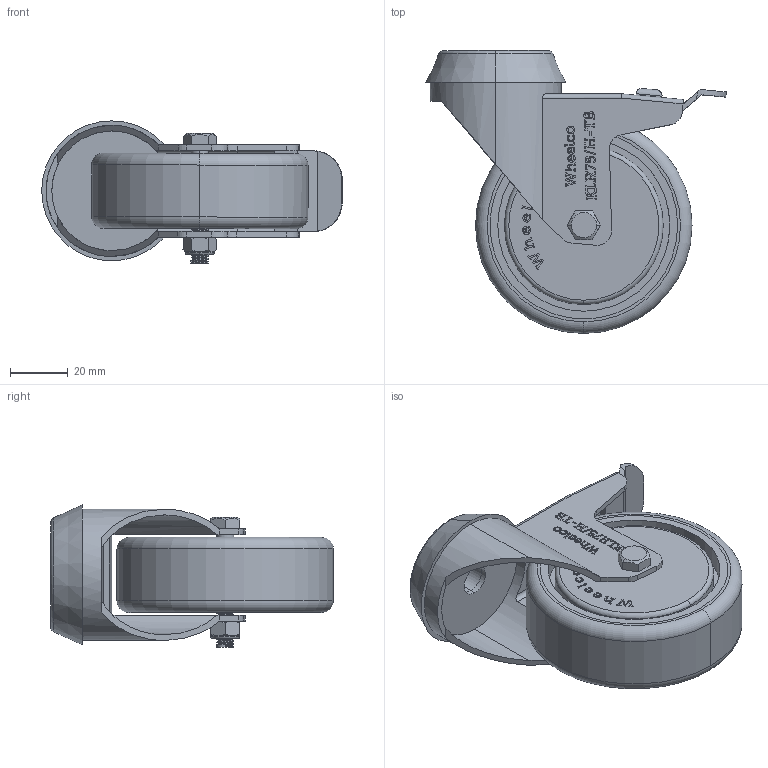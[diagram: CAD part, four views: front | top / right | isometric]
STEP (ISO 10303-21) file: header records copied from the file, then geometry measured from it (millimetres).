
FILE_DESCRIPTION (( 'STEP AP214' ), '1' );
FILE_NAME ('KLR75-H-TB.step', '2023-12-04T19:23:11', ( '' ), ( '' ), 'SwSTEP 2.0', 'SolidWorks 2022', '' );
FILE_SCHEMA (( 'AUTOMOTIVE_DESIGN' ));
Length unit declared in the file: millimetre
Products named in the file (6): KLR75 CAP; KLR75-P-TB; M6NYLOC-WHITE; KLR75-H-TB; M6x45; KLR75-WHEEL
Assembly tree (5 placements, depth 2):
  KLR75-H-TB
    KLR75-P-TB
    KLR75 CAP
    KLR75-WHEEL
    M6x45
    M6NYLOC-WHITE
Bounding box: 104.12 x 98 x 49.31 mm (x, y, z)
Volume: 139799.3 mm3; surface area: 43769.8 mm2
Topology: 5 solids, 5 shells, 653 faces, 1751 edges, 1152 vertices
Faces by surface type: plane 374, bspline 141, cylinder 102, cone 20, torus 16
Entity records: 30955 total; most frequent: CARTESIAN_POINT 15474, ORIENTED_EDGE 3502, DIRECTION 2527, EDGE_CURVE 1751, VECTOR 1173, LINE 1173, VERTEX_POINT 1152, EDGE_LOOP 709
